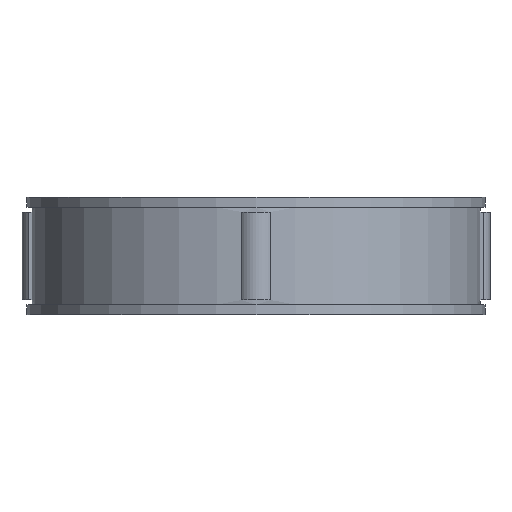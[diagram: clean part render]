
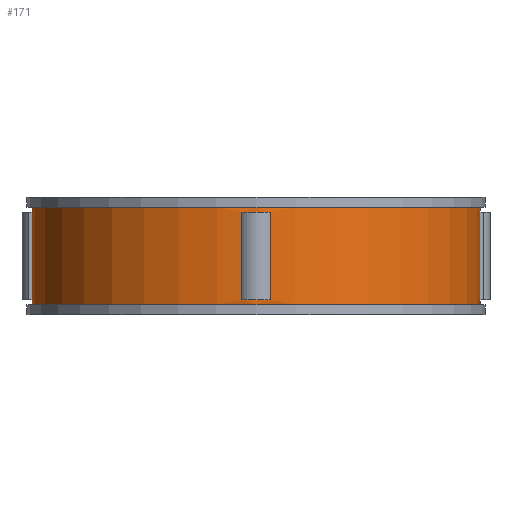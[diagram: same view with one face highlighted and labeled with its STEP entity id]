
A CAD part, front view. The second image highlights one B-rep face of the part: STEP entity #171.
In plain terms, the highlighted cylindrical face has radius 23 mm (diameter 46 mm), a full revolution.
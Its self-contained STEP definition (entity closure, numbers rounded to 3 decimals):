
#171=ADVANCED_FACE('',(#359,#360,#361,#362,#363,#364),#219,.T.);
#219=CYLINDRICAL_SURFACE('',#882,23.);
#231=LINE('',#1207,#295);
#232=LINE('',#1212,#296);
#233=LINE('',#1215,#297);
#234=LINE('',#1220,#298);
#235=LINE('',#1223,#299);
#236=LINE('',#1228,#300);
#237=LINE('',#1234,#301);
#238=LINE('',#1238,#302);
#295=VECTOR('',#966,1.);
#296=VECTOR('',#969,1.);
#297=VECTOR('',#972,1.);
#298=VECTOR('',#975,1.);
#299=VECTOR('',#978,1.);
#300=VECTOR('',#981,1.);
#301=VECTOR('',#986,1.);
#302=VECTOR('',#989,1.);
#359=FACE_BOUND('',#383,.T.);
#360=FACE_BOUND('',#384,.T.);
#361=FACE_BOUND('',#385,.T.);
#362=FACE_BOUND('',#386,.T.);
#363=FACE_BOUND('',#387,.T.);
#364=FACE_BOUND('',#388,.T.);
#383=EDGE_LOOP('',(#447));
#384=EDGE_LOOP('',(#448));
#385=EDGE_LOOP('',(#449,#450,#451,#452));
#386=EDGE_LOOP('',(#453,#454,#455,#456));
#387=EDGE_LOOP('',(#457,#458,#459,#460));
#388=EDGE_LOOP('',(#461,#462,#463,#464));
#447=ORIENTED_EDGE('',*,*,#727,.F.);
#448=ORIENTED_EDGE('',*,*,#728,.T.);
#449=ORIENTED_EDGE('',*,*,#729,.F.);
#450=ORIENTED_EDGE('',*,*,#730,.T.);
#451=ORIENTED_EDGE('',*,*,#731,.F.);
#452=ORIENTED_EDGE('',*,*,#732,.F.);
#453=ORIENTED_EDGE('',*,*,#733,.F.);
#454=ORIENTED_EDGE('',*,*,#734,.T.);
#455=ORIENTED_EDGE('',*,*,#735,.F.);
#456=ORIENTED_EDGE('',*,*,#736,.F.);
#457=ORIENTED_EDGE('',*,*,#737,.F.);
#458=ORIENTED_EDGE('',*,*,#738,.T.);
#459=ORIENTED_EDGE('',*,*,#739,.F.);
#460=ORIENTED_EDGE('',*,*,#740,.F.);
#461=ORIENTED_EDGE('',*,*,#741,.F.);
#462=ORIENTED_EDGE('',*,*,#742,.T.);
#463=ORIENTED_EDGE('',*,*,#743,.T.);
#464=ORIENTED_EDGE('',*,*,#744,.T.);
#655=VERTEX_POINT('',#1204);
#656=VERTEX_POINT('',#1206);
#657=VERTEX_POINT('',#1208);
#658=VERTEX_POINT('',#1209);
#659=VERTEX_POINT('',#1211);
#660=VERTEX_POINT('',#1213);
#661=VERTEX_POINT('',#1216);
#662=VERTEX_POINT('',#1217);
#663=VERTEX_POINT('',#1219);
#664=VERTEX_POINT('',#1221);
#665=VERTEX_POINT('',#1224);
#666=VERTEX_POINT('',#1225);
#667=VERTEX_POINT('',#1227);
#668=VERTEX_POINT('',#1229);
#669=VERTEX_POINT('',#1232);
#670=VERTEX_POINT('',#1233);
#671=VERTEX_POINT('',#1235);
#672=VERTEX_POINT('',#1237);
#727=EDGE_CURVE('',#655,#655,#831,.T.);
#728=EDGE_CURVE('',#656,#656,#832,.T.);
#729=EDGE_CURVE('',#657,#658,#231,.T.);
#730=EDGE_CURVE('',#657,#659,#833,.T.);
#731=EDGE_CURVE('',#660,#659,#232,.T.);
#732=EDGE_CURVE('',#658,#660,#834,.T.);
#733=EDGE_CURVE('',#661,#662,#233,.T.);
#734=EDGE_CURVE('',#661,#663,#835,.T.);
#735=EDGE_CURVE('',#664,#663,#234,.T.);
#736=EDGE_CURVE('',#662,#664,#836,.T.);
#737=EDGE_CURVE('',#665,#666,#235,.T.);
#738=EDGE_CURVE('',#665,#667,#837,.T.);
#739=EDGE_CURVE('',#668,#667,#236,.T.);
#740=EDGE_CURVE('',#666,#668,#838,.T.);
#741=EDGE_CURVE('',#669,#670,#839,.T.);
#742=EDGE_CURVE('',#669,#671,#237,.T.);
#743=EDGE_CURVE('',#671,#672,#840,.T.);
#744=EDGE_CURVE('',#672,#670,#238,.T.);
#831=CIRCLE('',#872,23.);
#832=CIRCLE('',#873,23.);
#833=CIRCLE('',#874,23.);
#834=CIRCLE('',#875,23.);
#835=CIRCLE('',#876,23.);
#836=CIRCLE('',#877,23.);
#837=CIRCLE('',#878,23.);
#838=CIRCLE('',#879,23.);
#839=CIRCLE('',#880,23.);
#840=CIRCLE('',#881,23.);
#872=AXIS2_PLACEMENT_3D('',#1203,#962,#963);
#873=AXIS2_PLACEMENT_3D('',#1205,#964,#965);
#874=AXIS2_PLACEMENT_3D('',#1210,#967,#968);
#875=AXIS2_PLACEMENT_3D('',#1214,#970,#971);
#876=AXIS2_PLACEMENT_3D('',#1218,#973,#974);
#877=AXIS2_PLACEMENT_3D('',#1222,#976,#977);
#878=AXIS2_PLACEMENT_3D('',#1226,#979,#980);
#879=AXIS2_PLACEMENT_3D('',#1230,#982,#983);
#880=AXIS2_PLACEMENT_3D('',#1231,#984,#985);
#881=AXIS2_PLACEMENT_3D('',#1236,#987,#988);
#882=AXIS2_PLACEMENT_3D('',#1239,#990,#991);
#962=DIRECTION('',(0.,0.,1.));
#963=DIRECTION('',(1.,0.,0.));
#964=DIRECTION('',(0.,0.,1.));
#965=DIRECTION('',(1.,0.,0.));
#966=DIRECTION('',(0.,0.,-1.));
#967=DIRECTION('',(0.,0.,1.));
#968=DIRECTION('',(1.,0.,0.));
#969=DIRECTION('',(0.,0.,1.));
#970=DIRECTION('',(0.,0.,1.));
#971=DIRECTION('',(1.,0.,0.));
#972=DIRECTION('',(0.,0.,-1.));
#973=DIRECTION('',(0.,0.,1.));
#974=DIRECTION('',(1.,0.,0.));
#975=DIRECTION('',(0.,0.,1.));
#976=DIRECTION('',(0.,0.,1.));
#977=DIRECTION('',(1.,0.,0.));
#978=DIRECTION('',(0.,0.,-1.));
#979=DIRECTION('',(0.,0.,1.));
#980=DIRECTION('',(1.,0.,0.));
#981=DIRECTION('',(0.,0.,1.));
#982=DIRECTION('',(0.,0.,1.));
#983=DIRECTION('',(1.,0.,0.));
#984=DIRECTION('',(0.,0.,-1.));
#985=DIRECTION('',(-1.,0.,0.));
#986=DIRECTION('',(0.,0.,-1.));
#987=DIRECTION('',(0.,0.,-1.));
#988=DIRECTION('',(-1.,0.,0.));
#989=DIRECTION('',(0.,0.,1.));
#990=DIRECTION('',(0.,0.,-1.));
#991=DIRECTION('',(-1.,0.,0.));
#1203=CARTESIAN_POINT('',(0.,0.,11.));
#1204=CARTESIAN_POINT('',(23.,0.,11.));
#1205=CARTESIAN_POINT('',(0.,0.,1.));
#1206=CARTESIAN_POINT('',(23.,0.,1.));
#1207=CARTESIAN_POINT('',(22.953,-1.471,12.));
#1208=CARTESIAN_POINT('',(22.953,-1.471,10.5));
#1209=CARTESIAN_POINT('',(22.953,-1.471,1.5));
#1210=CARTESIAN_POINT('',(0.,0.,10.5));
#1211=CARTESIAN_POINT('',(22.953,1.471,10.5));
#1212=CARTESIAN_POINT('',(22.953,1.471,12.));
#1213=CARTESIAN_POINT('',(22.953,1.471,1.5));
#1214=CARTESIAN_POINT('',(0.,0.,1.5));
#1215=CARTESIAN_POINT('',(1.471,22.953,12.));
#1216=CARTESIAN_POINT('',(1.471,22.953,10.5));
#1217=CARTESIAN_POINT('',(1.471,22.953,1.5));
#1218=CARTESIAN_POINT('',(0.,0.,10.5));
#1219=CARTESIAN_POINT('',(-1.471,22.953,10.5));
#1220=CARTESIAN_POINT('',(-1.471,22.953,12.));
#1221=CARTESIAN_POINT('',(-1.471,22.953,1.5));
#1222=CARTESIAN_POINT('',(0.,0.,1.5));
#1223=CARTESIAN_POINT('',(-22.953,1.471,12.));
#1224=CARTESIAN_POINT('',(-22.953,1.471,10.5));
#1225=CARTESIAN_POINT('',(-22.953,1.471,1.5));
#1226=CARTESIAN_POINT('',(0.,0.,10.5));
#1227=CARTESIAN_POINT('',(-22.953,-1.471,10.5));
#1228=CARTESIAN_POINT('',(-22.953,-1.471,12.));
#1229=CARTESIAN_POINT('',(-22.953,-1.471,1.5));
#1230=CARTESIAN_POINT('',(0.,0.,1.5));
#1231=CARTESIAN_POINT('',(0.,0.,10.5));
#1232=CARTESIAN_POINT('',(1.471,-22.953,10.5));
#1233=CARTESIAN_POINT('',(-1.471,-22.953,10.5));
#1234=CARTESIAN_POINT('',(1.471,-22.953,12.));
#1235=CARTESIAN_POINT('',(1.471,-22.953,1.5));
#1236=CARTESIAN_POINT('',(0.,0.,1.5));
#1237=CARTESIAN_POINT('',(-1.471,-22.953,1.5));
#1238=CARTESIAN_POINT('',(-1.471,-22.953,12.));
#1239=CARTESIAN_POINT('',(0.,0.,12.));
